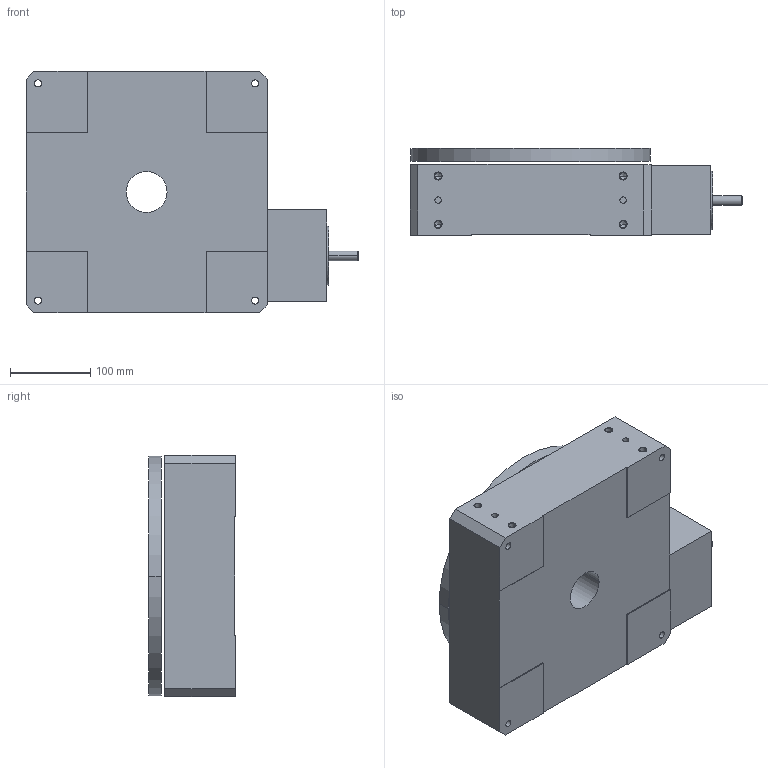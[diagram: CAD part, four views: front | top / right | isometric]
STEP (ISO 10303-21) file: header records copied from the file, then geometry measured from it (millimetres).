
FILE_DESCRIPTION((''),'2;1');
FILE_NAME('R300M9M00E0_ASM','2009-07-02T',('FK20128'),(''),'PRO/ENGINEER BY PARAMETRIC TECHNOLOGY CORPORATION, 2006200','PRO/ENGINEER BY PARAMETRIC TECHNOLOGY CORPORATION, 2006200','');
FILE_SCHEMA(('CONFIG_CONTROL_DESIGN'));
Length unit declared in the file: millimetre
Products named in the file (2): R300M; R300M9M00E0_ASM
Assembly tree (1 placements, depth 2):
  R300M9M00E0_ASM
    R300M
Bounding box: 412.77 x 108.13 x 300 mm (x, y, z)
Volume: 9430225 mm3; surface area: 499985.2 mm2
Topology: 2 solids, 16 shells, 178 faces, 440 edges, 292 vertices
Faces by surface type: cylinder 104, plane 60, cone 14
Entity records: 5422 total; most frequent: DIRECTION 1032, CARTESIAN_POINT 903, ORIENTED_EDGE 800, EDGE_CURVE 428, AXIS2_PLACEMENT_3D 421, VERTEX_POINT 292, EDGE_LOOP 244, CIRCLE 238
